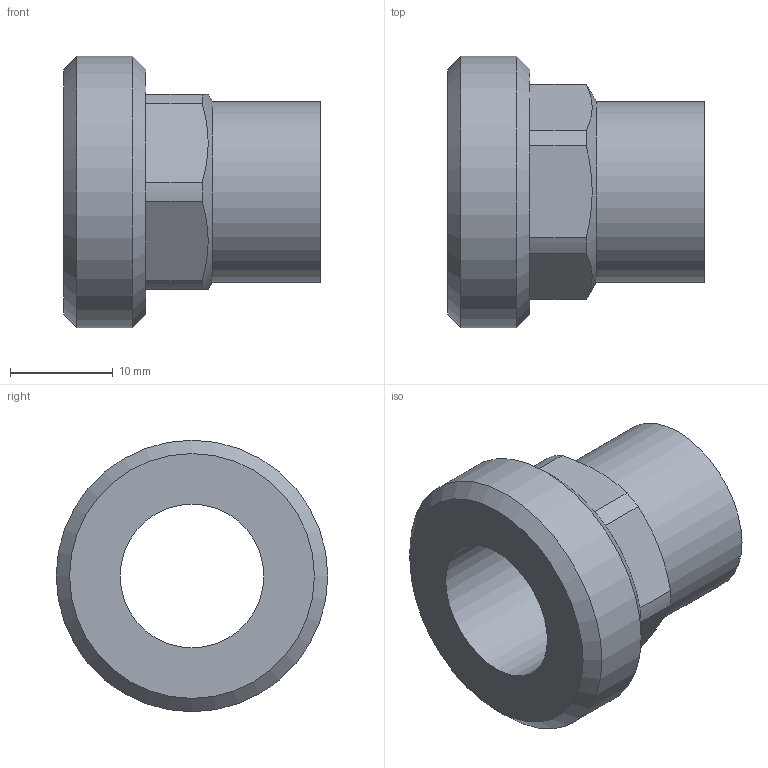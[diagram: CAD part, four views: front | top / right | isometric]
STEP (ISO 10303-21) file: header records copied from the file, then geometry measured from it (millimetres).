
FILE_DESCRIPTION((''),'2;1');
FILE_NAME('\\lg50001\SANHA_Legnica\Engineering\Public\RYSUNKI\SANHA POLSKA\4370\STEP\14370_15-34(1).stp','2012-06-21T14:32:03',('pajchrowski'),(''),'Autodesk Inventor 2009','Autodesk Inventor 2009','');
FILE_SCHEMA(('AUTOMOTIVE_DESIGN { 1 0 10303 214 1 1 1 1 }'));
Length unit declared in the file: millimetre
Products named in the file (1): 14370_15-34(1)
Bounding box: 25 x 26.44 x 26.44 mm (x, y, z)
Volume: 4702.8 mm3; surface area: 3423.6 mm2
Topology: 1 solids, 1 shells, 23 faces, 54 edges, 35 vertices
Faces by surface type: cylinder 10, plane 10, cone 3
Full cylindrical faces by diameter (mm): 14 x1, 15 x1, 17.6 x1, 26.441 x1
Entity records: 646 total; most frequent: CARTESIAN_POINT 116, DIRECTION 110, ORIENTED_EDGE 92, AXIS2_PLACEMENT_3D 46, EDGE_CURVE 46, VERTEX_POINT 34, EDGE_LOOP 34, FACE_OUTER_BOUND 23
